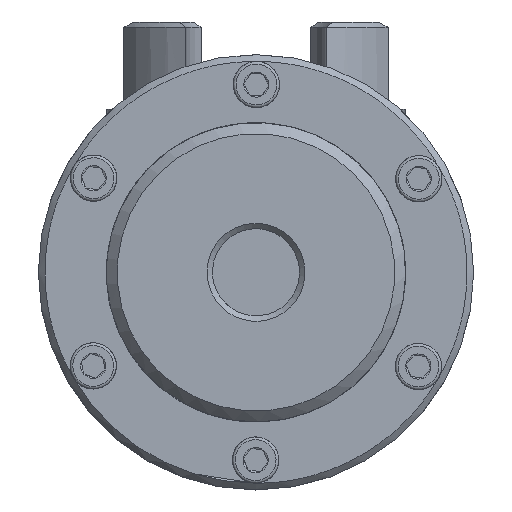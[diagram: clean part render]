
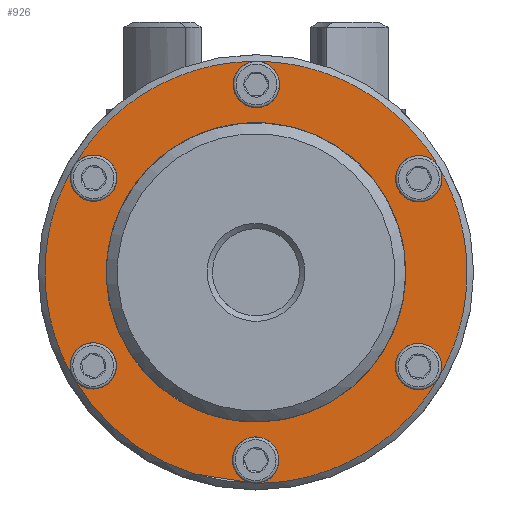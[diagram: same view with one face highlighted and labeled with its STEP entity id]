
A CAD part, left-side view. The second image highlights one B-rep face of the part: STEP entity #926.
In plain terms, the highlighted planar face has unit normal (-1, 0, 0).
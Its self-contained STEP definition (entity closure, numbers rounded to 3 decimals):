
#926 = ADVANCED_FACE( '', ( #1906, #1907 ), #1908, .F. );
#1906 = FACE_OUTER_BOUND( '', #2883, .T. );
#1907 = FACE_BOUND( '', #2884, .T. );
#1908 = PLANE( '', #2885 );
#2883 = EDGE_LOOP( '', ( #5246, #5247, #5248, #5249, #5250, #5251, #5252, #5253, #5254, #5255, #5256, #5257 ) );
#2884 = EDGE_LOOP( '', ( #5258 ) );
#2885 = AXIS2_PLACEMENT_3D( '', #5259, #5260, #5261 );
#5246 = ORIENTED_EDGE( '', *, *, #6380, .T. );
#5247 = ORIENTED_EDGE( '', *, *, #6373, .T. );
#5248 = ORIENTED_EDGE( '', *, *, #6369, .T. );
#5249 = ORIENTED_EDGE( '', *, *, #6372, .T. );
#5250 = ORIENTED_EDGE( '', *, *, #6378, .T. );
#5251 = ORIENTED_EDGE( '', *, *, #6377, .T. );
#5252 = ORIENTED_EDGE( '', *, *, #6381, .T. );
#5253 = ORIENTED_EDGE( '', *, *, #6376, .T. );
#5254 = ORIENTED_EDGE( '', *, *, #6382, .T. );
#5255 = ORIENTED_EDGE( '', *, *, #6375, .T. );
#5256 = ORIENTED_EDGE( '', *, *, #6383, .T. );
#5257 = ORIENTED_EDGE( '', *, *, #6374, .T. );
#5258 = ORIENTED_EDGE( '', *, *, #6384, .F. );
#5259 = CARTESIAN_POINT( '', ( -13.499, 40., 0. ) );
#5260 = DIRECTION( '', ( 1., 0., 0. ) );
#5261 = DIRECTION( '', ( 0., 1., 0. ) );
#6369 = EDGE_CURVE( '', #7543, #7543, #7544, .T. );
#6372 = EDGE_CURVE( '', #7543, #7549, #7550, .F. );
#6373 = EDGE_CURVE( '', #7551, #7543, #7552, .F. );
#6374 = EDGE_CURVE( '', #7553, #7551, #7554, .F. );
#6375 = EDGE_CURVE( '', #7555, #7553, #7556, .F. );
#6376 = EDGE_CURVE( '', #7557, #7555, #7558, .F. );
#6377 = EDGE_CURVE( '', #7549, #7557, #7559, .F. );
#6378 = EDGE_CURVE( '', #7549, #7549, #7560, .T. );
#6380 = EDGE_CURVE( '', #7551, #7551, #7563, .T. );
#6381 = EDGE_CURVE( '', #7557, #7557, #7564, .T. );
#6382 = EDGE_CURVE( '', #7555, #7555, #7565, .T. );
#6383 = EDGE_CURVE( '', #7553, #7553, #7566, .T. );
#6384 = EDGE_CURVE( '', #7567, #7567, #7568, .F. );
#7543 = VERTEX_POINT( '', #9921 );
#7544 = CIRCLE( '', #9922, 4.25 );
#7549 = VERTEX_POINT( '', #9927 );
#7550 = CIRCLE( '', #9928, 38.75 );
#7551 = VERTEX_POINT( '', #9929 );
#7552 = CIRCLE( '', #9930, 38.75 );
#7553 = VERTEX_POINT( '', #9931 );
#7554 = CIRCLE( '', #9932, 38.75 );
#7555 = VERTEX_POINT( '', #9933 );
#7556 = CIRCLE( '', #9934, 38.75 );
#7557 = VERTEX_POINT( '', #9935 );
#7558 = CIRCLE( '', #9936, 38.75 );
#7559 = CIRCLE( '', #9937, 38.75 );
#7560 = CIRCLE( '', #9938, 4.25 );
#7563 = CIRCLE( '', #9941, 4.25 );
#7564 = CIRCLE( '', #9942, 4.25 );
#7565 = CIRCLE( '', #9943, 4.25 );
#7566 = CIRCLE( '', #9944, 4.25 );
#7567 = VERTEX_POINT( '', #9945 );
#7568 = CIRCLE( '', #9946, 27.5 );
#9921 = CARTESIAN_POINT( '', ( -13.499, 33.558, 19.375 ) );
#9922 = AXIS2_PLACEMENT_3D( '', #11331, #11332, #11333 );
#9927 = CARTESIAN_POINT( '', ( -13.499, 33.558, -19.375 ) );
#9928 = AXIS2_PLACEMENT_3D( '', #11340, #11341, #11342 );
#9929 = CARTESIAN_POINT( '', ( -13.499, 0., 38.75 ) );
#9930 = AXIS2_PLACEMENT_3D( '', #11343, #11344, #11345 );
#9931 = CARTESIAN_POINT( '', ( -13.499, -33.558, 19.375 ) );
#9932 = AXIS2_PLACEMENT_3D( '', #11346, #11347, #11348 );
#9933 = CARTESIAN_POINT( '', ( -13.499, -33.558, -19.375 ) );
#9934 = AXIS2_PLACEMENT_3D( '', #11349, #11350, #11351 );
#9935 = CARTESIAN_POINT( '', ( -13.499, 0., -38.75 ) );
#9936 = AXIS2_PLACEMENT_3D( '', #11352, #11353, #11354 );
#9937 = AXIS2_PLACEMENT_3D( '', #11355, #11356, #11357 );
#9938 = AXIS2_PLACEMENT_3D( '', #11358, #11359, #11360 );
#9941 = AXIS2_PLACEMENT_3D( '', #11364, #11365, #11366 );
#9942 = AXIS2_PLACEMENT_3D( '', #11367, #11368, #11369 );
#9943 = AXIS2_PLACEMENT_3D( '', #11370, #11371, #11372 );
#9944 = AXIS2_PLACEMENT_3D( '', #11373, #11374, #11375 );
#9945 = CARTESIAN_POINT( '', ( -13.499, 0., -27.5 ) );
#9946 = AXIS2_PLACEMENT_3D( '', #11376, #11377, #11378 );
#11331 = CARTESIAN_POINT( '', ( -13.499, 29.878, 17.25 ) );
#11332 = DIRECTION( '', ( 1., 0., 0. ) );
#11333 = DIRECTION( '', ( 0., 0., -1. ) );
#11340 = CARTESIAN_POINT( '', ( -13.499, 0., 0. ) );
#11341 = DIRECTION( '', ( 1., 0., 0. ) );
#11342 = DIRECTION( '', ( 0., 0., -1. ) );
#11343 = CARTESIAN_POINT( '', ( -13.499, 0., 0. ) );
#11344 = DIRECTION( '', ( 1., 0., 0. ) );
#11345 = DIRECTION( '', ( 0., 0., -1. ) );
#11346 = CARTESIAN_POINT( '', ( -13.499, 0., 0. ) );
#11347 = DIRECTION( '', ( 1., 0., 0. ) );
#11348 = DIRECTION( '', ( 0., 0., -1. ) );
#11349 = CARTESIAN_POINT( '', ( -13.499, 0., 0. ) );
#11350 = DIRECTION( '', ( 1., 0., 0. ) );
#11351 = DIRECTION( '', ( 0., 0., -1. ) );
#11352 = CARTESIAN_POINT( '', ( -13.499, 0., 0. ) );
#11353 = DIRECTION( '', ( 1., 0., 0. ) );
#11354 = DIRECTION( '', ( 0., 0., -1. ) );
#11355 = CARTESIAN_POINT( '', ( -13.499, 0., 0. ) );
#11356 = DIRECTION( '', ( 1., 0., 0. ) );
#11357 = DIRECTION( '', ( 0., 0., -1. ) );
#11358 = CARTESIAN_POINT( '', ( -13.499, 29.878, -17.25 ) );
#11359 = DIRECTION( '', ( 1., 0., 0. ) );
#11360 = DIRECTION( '', ( 0., 0., -1. ) );
#11364 = CARTESIAN_POINT( '', ( -13.499, 0., 34.5 ) );
#11365 = DIRECTION( '', ( 1., 0., 0. ) );
#11366 = DIRECTION( '', ( 0., 0., -1. ) );
#11367 = CARTESIAN_POINT( '', ( -13.499, 0., -34.5 ) );
#11368 = DIRECTION( '', ( 1., 0., 0. ) );
#11369 = DIRECTION( '', ( 0., 0., -1. ) );
#11370 = CARTESIAN_POINT( '', ( -13.499, -29.878, -17.25 ) );
#11371 = DIRECTION( '', ( 1., 0., 0. ) );
#11372 = DIRECTION( '', ( 0., 0., -1. ) );
#11373 = CARTESIAN_POINT( '', ( -13.499, -29.878, 17.25 ) );
#11374 = DIRECTION( '', ( 1., 0., 0. ) );
#11375 = DIRECTION( '', ( 0., 0., -1. ) );
#11376 = CARTESIAN_POINT( '', ( -13.499, 0., 0. ) );
#11377 = DIRECTION( '', ( 1., 0., 0. ) );
#11378 = DIRECTION( '', ( 0., 0., -1. ) );
